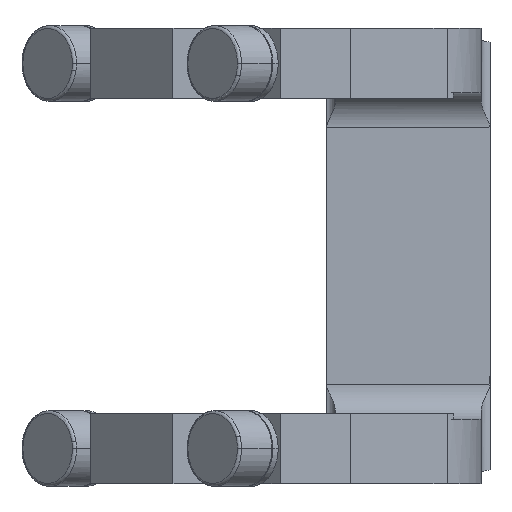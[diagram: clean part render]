
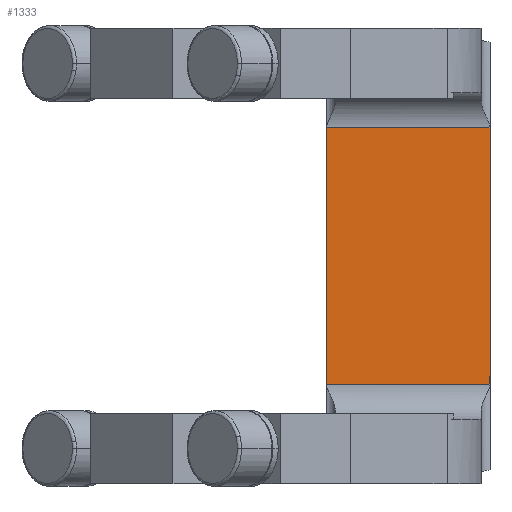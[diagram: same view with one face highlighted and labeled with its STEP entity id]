
A CAD part, front view. The second image highlights one B-rep face of the part: STEP entity #1333.
In plain terms, the highlighted planar face has unit normal (0, -1, 0).
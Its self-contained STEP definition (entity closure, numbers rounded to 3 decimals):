
#967=CARTESIAN_POINT('Line Origine',(-4.5,80.,-22.)) ;
#971=CARTESIAN_POINT('Vertex',(43.,80.,-22.)) ;
#973=CARTESIAN_POINT('Vertex',(15.,80.,-22.)) ;
#1303=CARTESIAN_POINT('Axis2P3D Location',(43.,80.,22.)) ;
#1308=CARTESIAN_POINT('Line Origine',(15.,80.,0.)) ;
#1312=CARTESIAN_POINT('Vertex',(15.,80.,22.)) ;
#1315=CARTESIAN_POINT('Line Origine',(43.,80.,0.)) ;
#1319=CARTESIAN_POINT('Vertex',(43.,80.,22.)) ;
#1322=CARTESIAN_POINT('Line Origine',(29.,80.,22.)) ;
#968=DIRECTION('Vector Direction',(1.,0.,0.)) ;
#1304=DIRECTION('Axis2P3D Direction',(0.,1.,0.)) ;
#1305=DIRECTION('Axis2P3D XDirection',(1.,0.,0.)) ;
#1309=DIRECTION('Vector Direction',(0.,0.,1.)) ;
#1316=DIRECTION('Vector Direction',(0.,0.,1.)) ;
#1323=DIRECTION('Vector Direction',(-1.,0.,0.)) ;
#1306=AXIS2_PLACEMENT_3D('Plane Axis2P3D',#1303,#1304,#1305) ;
#1328=ORIENTED_EDGE('',*,*,#1314,.F.) ;
#1329=ORIENTED_EDGE('',*,*,#975,.F.) ;
#1330=ORIENTED_EDGE('',*,*,#1321,.T.) ;
#1331=ORIENTED_EDGE('',*,*,#1326,.T.) ;
#969=VECTOR('Line Direction',#968,1.) ;
#1310=VECTOR('Line Direction',#1309,1.) ;
#1317=VECTOR('Line Direction',#1316,1.) ;
#1324=VECTOR('Line Direction',#1323,1.) ;
#1333=ADVANCED_FACE('NONE',(#1332),#1307,.F.) ;
#975=EDGE_CURVE('',#972,#974,#970,.F.) ;
#1314=EDGE_CURVE('',#974,#1313,#1311,.T.) ;
#1321=EDGE_CURVE('',#972,#1320,#1318,.T.) ;
#1326=EDGE_CURVE('',#1320,#1313,#1325,.T.) ;
#1327=EDGE_LOOP('',(#1328,#1329,#1330,#1331)) ;
#1332=FACE_OUTER_BOUND('',#1327,.T.) ;
#970=LINE('Line',#967,#969) ;
#1311=LINE('Line',#1308,#1310) ;
#1318=LINE('Line',#1315,#1317) ;
#1325=LINE('Line',#1322,#1324) ;
#1307=PLANE('Plane',#1306) ;
#972=VERTEX_POINT('',#971) ;
#974=VERTEX_POINT('',#973) ;
#1313=VERTEX_POINT('',#1312) ;
#1320=VERTEX_POINT('',#1319) ;
